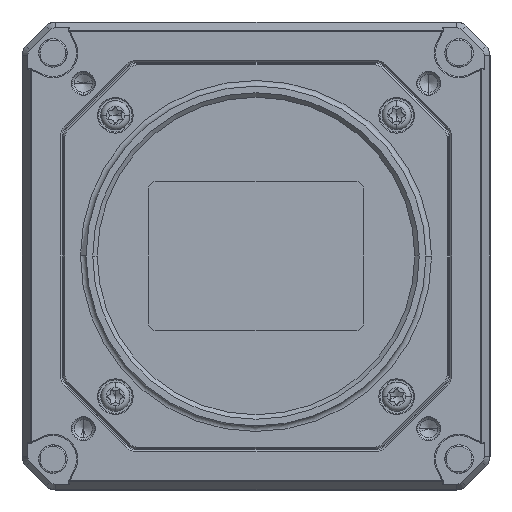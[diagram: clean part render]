
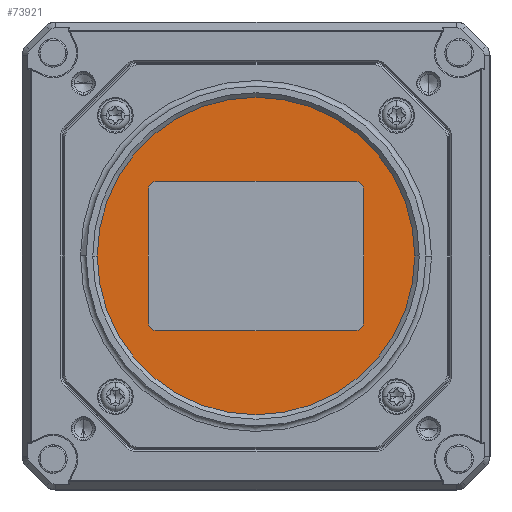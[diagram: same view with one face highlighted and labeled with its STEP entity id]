
A CAD part, left-side view. The second image highlights one B-rep face of the part: STEP entity #73921.
In plain terms, the highlighted planar face has unit normal (-1, 0, 0).
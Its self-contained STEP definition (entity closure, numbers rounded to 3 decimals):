
#19307=CARTESIAN_POINT('',(4.8,0.,0.));
#19308=DIRECTION('',(-1.,0.,0.));
#19309=DIRECTION('',(0.,1.,0.));
#19310=AXIS2_PLACEMENT_3D('',#19307,#19308,#19309);
#19331=CARTESIAN_POINT('',(4.8,0.,0.));
#19332=DIRECTION('',(-1.,0.,0.));
#19333=DIRECTION('',(0.,0.,1.));
#19334=AXIS2_PLACEMENT_3D('',#19331,#19332,#19333);
#19336=DIRECTION('',(0.,-1.,0.));
#19337=VECTOR('',#19336,35.6);
#19338=CARTESIAN_POINT('',(4.8,17.8,-13.4));
#19339=LINE('',#19338,#19337);
#19340=DIRECTION('',(0.,0.,1.));
#19341=VECTOR('',#19340,23.8);
#19342=CARTESIAN_POINT('',(4.8,-19.3,-11.9));
#19343=LINE('',#19342,#19341);
#19344=DIRECTION('',(0.,1.,0.));
#19345=VECTOR('',#19344,35.6);
#19346=CARTESIAN_POINT('',(4.8,-17.8,13.4));
#19347=LINE('',#19346,#19345);
#19348=DIRECTION('',(0.,0.,-1.));
#19349=VECTOR('',#19348,23.8);
#19350=CARTESIAN_POINT('',(4.8,19.3,11.9));
#19351=LINE('',#19350,#19349);
#19360=CARTESIAN_POINT('',(4.8,-17.8,-11.9));
#19361=DIRECTION('',(1.,0.,0.));
#19362=DIRECTION('',(0.,-1.,0.));
#19363=AXIS2_PLACEMENT_3D('',#19360,#19361,#19362);
#19401=CARTESIAN_POINT('',(4.8,-17.8,11.9));
#19402=DIRECTION('',(1.,0.,0.));
#19403=DIRECTION('',(0.,0.,1.));
#19404=AXIS2_PLACEMENT_3D('',#19401,#19402,#19403);
#19414=CARTESIAN_POINT('',(4.8,17.8,11.9));
#19415=DIRECTION('',(1.,0.,0.));
#19416=DIRECTION('',(0.,1.,0.));
#19417=AXIS2_PLACEMENT_3D('',#19414,#19415,#19416);
#19427=CARTESIAN_POINT('',(4.8,17.8,-11.9));
#19428=DIRECTION('',(1.,0.,0.));
#19429=DIRECTION('',(0.,0.,-1.));
#19430=AXIS2_PLACEMENT_3D('',#19427,#19428,#19429);
#47913=CARTESIAN_POINT('',(4.8,0.,28.5));
#47914=CARTESIAN_POINT('',(4.8,28.5,0.));
#47915=VERTEX_POINT('',#47913);
#47916=VERTEX_POINT('',#47914);
#47923=CARTESIAN_POINT('',(4.8,-17.8,13.4));
#47924=VERTEX_POINT('',#47923);
#47925=CARTESIAN_POINT('',(4.8,-19.3,11.9));
#47926=VERTEX_POINT('',#47925);
#47931=CARTESIAN_POINT('',(4.8,-19.3,-11.9));
#47932=VERTEX_POINT('',#47931);
#47933=CARTESIAN_POINT('',(4.8,-17.8,-13.4));
#47934=VERTEX_POINT('',#47933);
#47939=CARTESIAN_POINT('',(4.8,17.8,-13.4));
#47940=VERTEX_POINT('',#47939);
#47941=CARTESIAN_POINT('',(4.8,19.3,-11.9));
#47942=VERTEX_POINT('',#47941);
#47947=CARTESIAN_POINT('',(4.8,19.3,11.9));
#47948=VERTEX_POINT('',#47947);
#47949=CARTESIAN_POINT('',(4.8,17.8,13.4));
#47950=VERTEX_POINT('',#47949);
#73894=CARTESIAN_POINT('',(4.8,0.,0.));
#73895=DIRECTION('',(-1.,0.,0.));
#73896=DIRECTION('',(0.,0.,-1.));
#73897=AXIS2_PLACEMENT_3D('',#73894,#73895,#73896);
#73898=PLANE('',#73897);
#73899=ORIENTED_EDGE('',*,*,#73872,.F.);
#73900=ORIENTED_EDGE('',*,*,#73889,.F.);
#73901=EDGE_LOOP('',(#73899,#73900));
#73902=FACE_OUTER_BOUND('',#73901,.F.);
#73904=ORIENTED_EDGE('',*,*,#73903,.T.);
#73906=ORIENTED_EDGE('',*,*,#73905,.F.);
#73908=ORIENTED_EDGE('',*,*,#73907,.T.);
#73910=ORIENTED_EDGE('',*,*,#73909,.F.);
#73912=ORIENTED_EDGE('',*,*,#73911,.T.);
#73914=ORIENTED_EDGE('',*,*,#73913,.F.);
#73916=ORIENTED_EDGE('',*,*,#73915,.T.);
#73918=ORIENTED_EDGE('',*,*,#73917,.F.);
#73919=EDGE_LOOP('',(#73904,#73906,#73908,#73910,#73912,#73914,#73916,#73918));
#73920=FACE_BOUND('',#73919,.F.);
#73921=ADVANCED_FACE('',(#73902,#73920),#73898,.T.);
#19311=CIRCLE('',#19310,28.5);
#19335=CIRCLE('',#19334,28.5);
#19364=CIRCLE('',#19363,1.5);
#19405=CIRCLE('',#19404,1.5);
#19418=CIRCLE('',#19417,1.5);
#19431=CIRCLE('',#19430,1.5);
#73872=EDGE_CURVE('',#47916,#47915,#19311,.T.);
#73889=EDGE_CURVE('',#47915,#47916,#19335,.T.);
#73903=EDGE_CURVE('',#47940,#47934,#19339,.T.);
#73905=EDGE_CURVE('',#47932,#47934,#19364,.T.);
#73907=EDGE_CURVE('',#47932,#47926,#19343,.T.);
#73909=EDGE_CURVE('',#47924,#47926,#19405,.T.);
#73911=EDGE_CURVE('',#47924,#47950,#19347,.T.);
#73913=EDGE_CURVE('',#47948,#47950,#19418,.T.);
#73915=EDGE_CURVE('',#47948,#47942,#19351,.T.);
#73917=EDGE_CURVE('',#47940,#47942,#19431,.T.);
